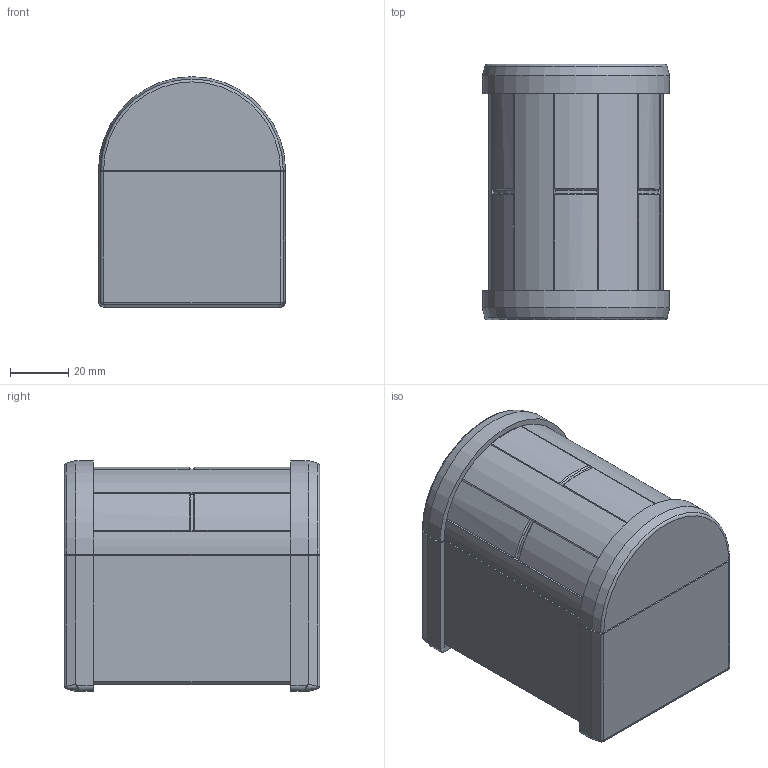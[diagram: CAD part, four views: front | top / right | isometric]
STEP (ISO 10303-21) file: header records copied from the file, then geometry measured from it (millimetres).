
FILE_DESCRIPTION(/* description */ (''),/* implementation_level */ '2;1');
FILE_NAME(/* name */ (''),/* time_stamp */ (''),/* author */ (''),/* organization */ (''),/* preprocessor_version */ 'ST-DEVELOPER v18.1',/* originating_system */ 'Autodesk Translation Framework v10.14.0.1471',/* authorisation */ '');
FILE_SCHEMA (('AUTOMOTIVE_DESIGN { 1 0 10303 214 3 1 1 }'));
Length unit declared in the file: millimetre
Products named in the file (1): Easy Print Treasure Chest Puzzle
Bounding box: 64.5 x 88 x 79.5 mm (x, y, z)
Volume: 189579.4 mm3; surface area: 98503.2 mm2
Topology: 10 solids, 10 shells, 452 faces, 1201 edges, 765 vertices
Faces by surface type: plane 335, cylinder 63, cone 44, bspline 8, torus 2
Full cylindrical faces by diameter (mm): 2 x3
Entity records: 14374 total; most frequent: CARTESIAN_POINT 3219, ORIENTED_EDGE 2384, DIRECTION 2163, EDGE_CURVE 1192, LINE 929, VECTOR 929, VERTEX_POINT 765, AXIS2_PLACEMENT_3D 617
